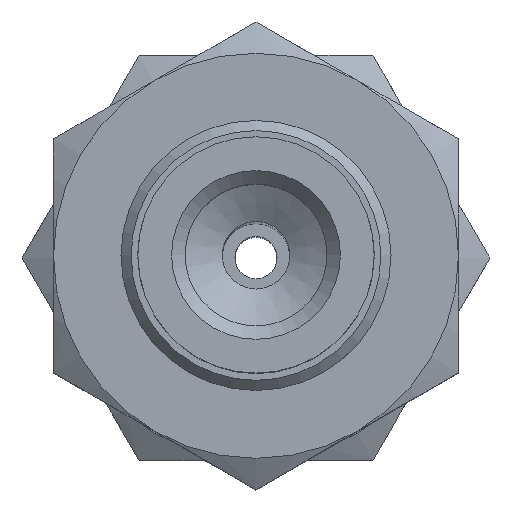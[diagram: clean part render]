
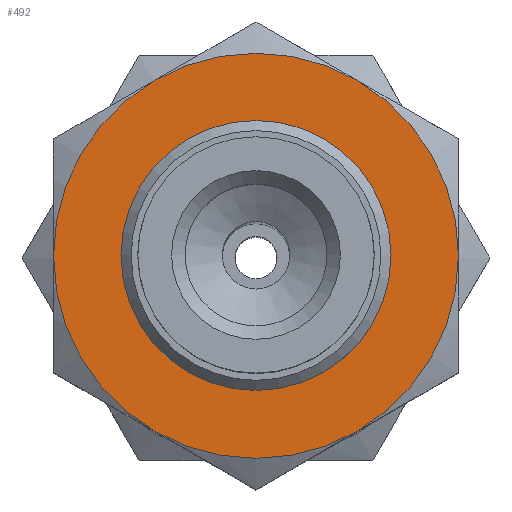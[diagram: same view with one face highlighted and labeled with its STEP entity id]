
A CAD part, top view. The second image highlights one B-rep face of the part: STEP entity #492.
In plain terms, the highlighted planar face has unit normal (0, 0, 1).
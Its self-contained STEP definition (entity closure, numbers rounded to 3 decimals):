
#492=ADVANCED_FACE('',(#708,#709),#710,.T.);
#708=FACE_BOUND('',#1053,.T.);
#709=FACE_OUTER_BOUND('',#1054,.T.);
#710=PLANE('',#1055);
#1053=EDGE_LOOP('',(#1559));
#1054=EDGE_LOOP('',(#1560,#1561,#1562,#1563,#1564,#1565));
#1055=AXIS2_PLACEMENT_3D('',#1566,#1567,#1568);
#1559=ORIENTED_EDGE('',*,*,#2171,.T.);
#1560=ORIENTED_EDGE('',*,*,#2172,.T.);
#1561=ORIENTED_EDGE('',*,*,#2173,.T.);
#1562=ORIENTED_EDGE('',*,*,#2137,.T.);
#1563=ORIENTED_EDGE('',*,*,#2159,.T.);
#1564=ORIENTED_EDGE('',*,*,#2174,.T.);
#1565=ORIENTED_EDGE('',*,*,#2169,.T.);
#1566=CARTESIAN_POINT('',(-6.928,-6.0,3.0));
#1567=DIRECTION('',(0.0,0.0,1.0));
#1568=DIRECTION('',(1.0,0.0,0.0));
#2137=EDGE_CURVE('',#2390,#2381,#2391,.T.);
#2159=EDGE_CURVE('',#2381,#2427,#2429,.T.);
#2169=EDGE_CURVE('',#2405,#2396,#2442,.T.);
#2171=EDGE_CURVE('',#2444,#2444,#2445,.T.);
#2172=EDGE_CURVE('',#2396,#2423,#2446,.T.);
#2173=EDGE_CURVE('',#2423,#2390,#2447,.T.);
#2174=EDGE_CURVE('',#2427,#2405,#2448,.T.);
#2381=VERTEX_POINT('',#2752);
#2390=VERTEX_POINT('',#2774);
#2391=CIRCLE('',#2775,6.0);
#2396=VERTEX_POINT('',#2785);
#2405=VERTEX_POINT('',#2807);
#2423=VERTEX_POINT('',#2851);
#2427=VERTEX_POINT('',#2863);
#2429=CIRCLE('',#2869,6.0);
#2442=CIRCLE('',#2898,6.0);
#2444=VERTEX_POINT('',#2900);
#2445=CIRCLE('',#2901,3.925);
#2446=CIRCLE('',#2902,6.0);
#2447=CIRCLE('',#2903,6.0);
#2448=CIRCLE('',#2904,6.0);
#2752=CARTESIAN_POINT('',(-5.196,3.0,3.0));
#2774=CARTESIAN_POINT('',(0.,6.0,3.0));
#2775=AXIS2_PLACEMENT_3D('',#3367,#3368,#3369);
#2785=CARTESIAN_POINT('',(5.196,-3.0,3.0));
#2807=CARTESIAN_POINT('',(0.,-6.0,3.0));
#2851=CARTESIAN_POINT('',(5.196,3.0,3.0));
#2863=CARTESIAN_POINT('',(-5.196,-3.0,3.0));
#2869=AXIS2_PLACEMENT_3D('',#3380,#3381,#3382);
#2898=AXIS2_PLACEMENT_3D('',#3395,#3396,#3397);
#2900=CARTESIAN_POINT('',(3.925,0.0,3.0));
#2901=AXIS2_PLACEMENT_3D('',#3401,#3402,#3403);
#2902=AXIS2_PLACEMENT_3D('',#3404,#3405,#3406);
#2903=AXIS2_PLACEMENT_3D('',#3407,#3408,#3409);
#2904=AXIS2_PLACEMENT_3D('',#3410,#3411,#3412);
#3367=CARTESIAN_POINT('',(0.,0.0,3.0));
#3368=DIRECTION('',(0.0,0.,1.0));
#3369=DIRECTION('',(0.0,-1.0,0.));
#3380=CARTESIAN_POINT('',(0.,0.0,3.0));
#3381=DIRECTION('',(0.0,0.,1.0));
#3382=DIRECTION('',(0.0,-1.0,0.));
#3395=CARTESIAN_POINT('',(0.,0.0,3.0));
#3396=DIRECTION('',(0.0,0.,1.0));
#3397=DIRECTION('',(0.0,-1.0,0.));
#3401=CARTESIAN_POINT('',(0.0,0.0,3.0));
#3402=DIRECTION('',(0.0,0.0,-1.0));
#3403=DIRECTION('',(1.0,0.0,0.0));
#3404=CARTESIAN_POINT('',(0.,0.0,3.0));
#3405=DIRECTION('',(0.0,0.,1.0));
#3406=DIRECTION('',(0.0,-1.0,0.));
#3407=CARTESIAN_POINT('',(0.,0.0,3.0));
#3408=DIRECTION('',(0.0,0.,1.0));
#3409=DIRECTION('',(0.0,-1.0,0.));
#3410=CARTESIAN_POINT('',(0.,0.0,3.0));
#3411=DIRECTION('',(0.0,0.,1.0));
#3412=DIRECTION('',(0.0,-1.0,0.));
